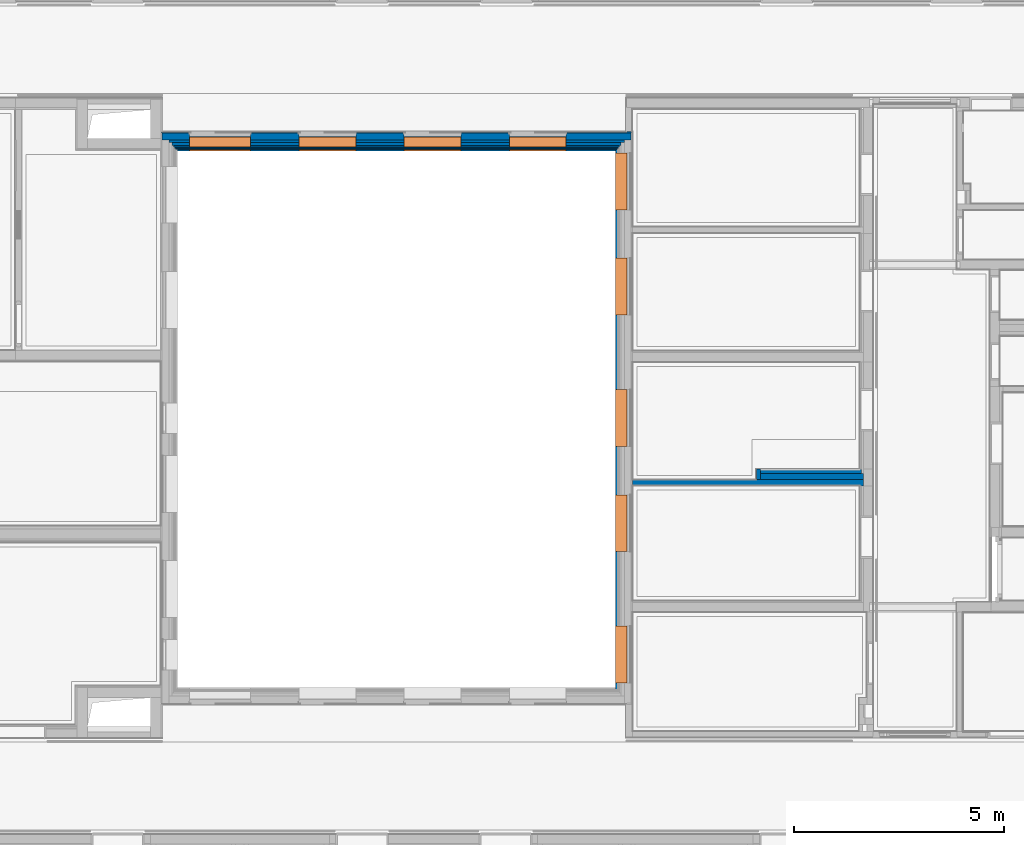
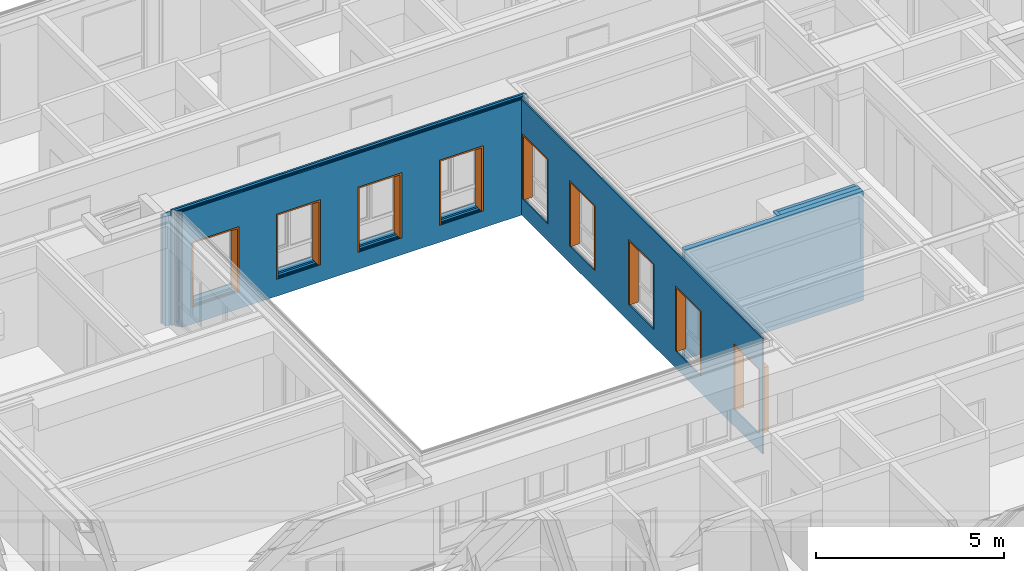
# One storey, part 48 of 222: 13 walls, 9 proxies, 37 openings.
"""IFC4 building model written with IfcOpenShell, lengths in metres."""

from ifc_helpers import new_model, entity, si_unit, converted_unit, derived_unit, frame, frame_2d, origin, origin_with_axes, place, context, subcontext, project, spatial, polyline, rectangle, outline, extrude, faceted_brep, material, element, fill, save


model = new_model("IFC4")

# Units and contexts
model_context = context("Model", 3, precision=1e-05, world=origin())
body_context = subcontext(model_context, "Body", "Model", "MODEL_VIEW")
ifc_project = project(units=[si_unit("LENGTHUNIT", "METRE"), si_unit("AREAUNIT", "SQUARE_METRE"), si_unit("VOLUMEUNIT", "CUBIC_METRE"), si_unit("MASSUNIT", "GRAM", prefix="KILO"), converted_unit("PLANEANGLEUNIT", "DEGREE", entity("IfcPlaneAngleMeasure", 0.0174532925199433), si_unit("PLANEANGLEUNIT", "RADIAN"), dimensions=[0, 0, 0, 0, 0, 0, 0]), derived_unit("THERMALTRANSMITTANCEUNIT", [(si_unit("POWERUNIT", "WATT"), 1), (si_unit("THERMODYNAMICTEMPERATUREUNIT", "KELVIN"), -1), (si_unit("LENGTHUNIT", "METRE"), -2)]), derived_unit("VOLUMETRICFLOWRATEUNIT", [(si_unit("LENGTHUNIT", "METRE"), 3), (converted_unit("TIMEUNIT", "hour", entity("IfcTimeMeasure", 3600.0), si_unit("TIMEUNIT", "SECOND"), dimensions=[0, 0, 1, 0, 0, 0, 0]), -1), (si_unit("LENGTHUNIT", "METRE"), -1)])], contexts=[model_context])

# Site, building, storey
site_placement = place(None, origin())
site = spatial("IfcSite", under=ifc_project, at=site_placement, Name="Psychiatrie Neubau Wunstorf", CompositionType="ELEMENT")
building_placement = place(site_placement, origin())
building = spatial("IfcBuilding", under=site, at=building_placement, Name="Neubau H2 Stationsgebäude", CompositionType="ELEMENT")
storey_placement = place(building_placement, frame((0.0, 0.0, 3.6)))
storey = spatial("IfcBuildingStorey", under=building, at=storey_placement, Name="H2 Ebene +1", CompositionType="ELEMENT", Elevation=3.6)

# Wall, openings, proxies
ifc_material_1 = material(Name="WA-HS")
wall_1_placement = place(storey_placement, frame((90.001, 8.77400918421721, 0.0), z_axis=(0.0, 0.0, 1.0), x_axis=(0.0, 1.0, 0.0)))
wall_1 = element("IfcWall", 1, at=wall_1_placement, inside=storey, material=ifc_material_1, context=body_context, shape_type="SweptSolid", body=[
    extrude(rectangle(XDim=12.8419924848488, YDim=0.042, at=frame_2d((6.42099624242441, 0.021), x_axis=(1.0, 0.0))), origin_with_axes(), (0.0, 0.0, 1.0), 3.75),
])
opening_1_placement = place(wall_1_placement, frame((1.50172768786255, 0.042, 0.55), z_axis=(0.0, -1.0, 0.0), x_axis=(0.0, 0.0, 1.0)))
opening_1 = element("IfcOpeningElement", 2, at=opening_1_placement, cuts=wall_1, Name="Fensteröffnung", ObjectType="Opening", context=body_context, shape_type="SweptSolid", body=[
    extrude(outline(polyline([(2.115, 1.35), (2.115, 0.0), (0.0, 0.0), (0.0, 1.35), (2.115, 1.35)])), origin_with_axes(), (0.0, 0.0, 1.0), 0.042),
])
opening_2_placement = place(wall_1_placement, frame((4.62600281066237, 0.0419999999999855, 0.55), z_axis=(0.0, -1.0, 0.0), x_axis=(0.0, 0.0, 1.0)))
opening_2 = element("IfcOpeningElement", 3, at=opening_2_placement, cuts=wall_1, Name="Fensteröffnung", ObjectType="Opening", context=body_context, shape_type="SweptSolid", body=[
    extrude(outline(polyline([(2.115, 1.35), (2.115, 0.0), (0.0, 0.0), (0.0, 1.35), (2.115, 1.35)])), origin_with_axes(), (0.0, 0.0, 1.0), 0.042),
])
opening_3_placement = place(wall_1_placement, frame((7.12600281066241, 0.042, 0.55), z_axis=(0.0, -1.0, 0.0), x_axis=(0.0, 0.0, 1.0)))
opening_3 = element("IfcOpeningElement", 4, at=opening_3_placement, cuts=wall_1, Name="Fensteröffnung", ObjectType="Opening", context=body_context, shape_type="SweptSolid", body=[
    extrude(outline(polyline([(2.115, 1.35), (2.115, 0.0), (0.0, 0.0), (0.0, 1.35), (2.115, 1.35)])), origin_with_axes(), (0.0, 0.0, 1.0), 0.042),
])
opening_4_placement = place(wall_1_placement, frame((10.2506202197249, 0.0420000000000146, 0.55), z_axis=(0.0, -1.0, 0.0), x_axis=(0.0, 0.0, 1.0)))
opening_4 = element("IfcOpeningElement", 5, at=opening_4_placement, cuts=wall_1, Name="Fensteröffnung", ObjectType="Opening", context=body_context, shape_type="SweptSolid", body=[
    extrude(outline(polyline([(2.115, 1.35), (2.115, 0.0), (0.0, 0.0), (0.0, 1.35), (2.115, 1.35)])), origin_with_axes(), (0.0, 0.0, 1.0), 0.042),
])
opening_5_placement = place(wall_1_placement, frame((12.7505626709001, 0.0419999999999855, 0.55), z_axis=(0.0, -1.0, 0.0), x_axis=(0.0, 0.0, 1.0)))
opening_5 = element("IfcOpeningElement", 6, at=opening_5_placement, cuts=wall_1, Name="Fensteröffnung", ObjectType="Opening", context=body_context, shape_type="SweptSolid", body=[
    extrude(outline(polyline([(2.115, 1.35), (2.115, 0.0), (0.0, 0.0), (0.0, 1.35), (2.115, 1.35)])), origin_with_axes(), (0.0, 0.0, 1.0), 0.042),
])
ifc_material_2 = material(Name="WA-HS")
proxy_1_placement = place(opening_1_placement, frame((0.0, 1.35, 0.0)))
proxy_1 = element("IfcBuildingElementProxy", 7, at=proxy_1_placement, inside=storey, material=ifc_material_2, context=body_context, shape_type="Brep", body=[
    faceted_brep([(0.0, 0.0, 0.275), (0.0, 0.0, 0.0), (2.115, 0.0, 0.0), (2.115, 0.0, 0.275), (2.115, -1.35, 0.0), (2.115, -1.35, 0.275), (0.0, -0.05, 0.0), (0.0, -0.05, 0.275), (0.0, -1.35, 0.275), (0.0, -1.3, 0.275), (2.065, -1.3, 0.275), (2.065, -0.05, 0.275), (2.065, -0.05, 0.0), (2.065, -1.3, 0.0), (0.0, -1.3, 0.0), (0.0, -1.35, 0.0)], [[[0, 1, 2, 3]], [[2, 4, 5, 3]], [[6, 1, 0, 7]], [[7, 0, 3, 5, 8, 9, 10, 11]], [[1, 6, 12, 13, 14, 15, 4, 2]], [[6, 7, 11, 12]], [[15, 8, 5, 4]], [[15, 14, 9, 8]], [[9, 14, 13, 10]], [[10, 13, 12, 11]]], orient=[[False], [False], [False], [False], [False], [False], [False], [False], [False], [False]]),
])
fill(opening_1, proxy_1)
ifc_material_3 = material(Name="WA-HS")
proxy_2_placement = place(opening_2_placement, frame((0.0, 1.35, 0.0)))
proxy_2 = element("IfcBuildingElementProxy", 8, at=proxy_2_placement, inside=storey, material=ifc_material_3, context=body_context, shape_type="Brep", body=[
    faceted_brep([(0.0, -1.35, 0.0), (0.0, -1.35, 0.275), (2.115, -1.35, 0.275), (2.115, -1.35, 0.0), (0.0, -1.3, 0.275), (0.0, -1.3, 0.0), (2.065, -1.3, 0.0), (2.065, -1.3, 0.275), (2.115, 0.0, 0.275), (2.115, 0.0, 0.0), (0.0, 0.0, 0.0), (0.0, -0.05, 0.0), (2.065, -0.05, 0.0), (2.065, -0.05, 0.275), (0.0, -0.05, 0.275), (0.0, 0.0, 0.275)], [[[0, 1, 2, 3]], [[4, 5, 6, 7]], [[0, 5, 4, 1]], [[3, 2, 8, 9]], [[6, 5, 0, 3, 9, 10, 11, 12]], [[13, 14, 15, 8, 2, 1, 4, 7]], [[7, 6, 12, 13]], [[11, 14, 13, 12]], [[15, 10, 9, 8]], [[11, 10, 15, 14]]], orient=[[False], [False], [False], [False], [False], [False], [False], [False], [False], [False]]),
])
fill(opening_2, proxy_2)
ifc_material_4 = material(Name="WA-HS")
proxy_3_placement = place(opening_3_placement, frame((0.0, 1.35, 0.0)))
proxy_3 = element("IfcBuildingElementProxy", 9, at=proxy_3_placement, inside=storey, material=ifc_material_4, context=body_context, shape_type="Brep", body=[
    faceted_brep([(0.0, 0.0, 0.275), (0.0, 0.0, 0.0), (2.115, 0.0, 0.0), (2.115, 0.0, 0.275), (2.115, -1.35, 0.0), (2.115, -1.35, 0.275), (0.0, -0.05, 0.0), (0.0, -0.05, 0.275), (0.0, -1.35, 0.275), (0.0, -1.3, 0.275), (2.065, -1.3, 0.275), (2.065, -0.05, 0.275), (2.065, -0.05, 0.0), (2.065, -1.3, 0.0), (0.0, -1.3, 0.0), (0.0, -1.35, 0.0)], [[[0, 1, 2, 3]], [[2, 4, 5, 3]], [[6, 1, 0, 7]], [[7, 0, 3, 5, 8, 9, 10, 11]], [[1, 6, 12, 13, 14, 15, 4, 2]], [[6, 7, 11, 12]], [[15, 8, 5, 4]], [[15, 14, 9, 8]], [[9, 14, 13, 10]], [[10, 13, 12, 11]]], orient=[[False], [False], [False], [False], [False], [False], [False], [False], [False], [False]]),
])
fill(opening_3, proxy_3)
ifc_material_5 = material(Name="WA-HS")
proxy_4_placement = place(opening_4_placement, frame((0.0, 1.35, 0.0)))
proxy_4 = element("IfcBuildingElementProxy", 10, at=proxy_4_placement, inside=storey, material=ifc_material_5, context=body_context, shape_type="Brep", body=[
    faceted_brep([(0.0, -1.35, 0.0), (0.0, -1.35, 0.275), (2.115, -1.35, 0.275), (2.115, -1.35, 0.0), (0.0, -1.3, 0.275), (0.0, -1.3, 0.0), (2.065, -1.3, 0.0), (2.065, -1.3, 0.275), (2.115, 0.0, 0.275), (2.115, 0.0, 0.0), (0.0, 0.0, 0.0), (0.0, -0.05, 0.0), (2.065, -0.05, 0.0), (2.065, -0.05, 0.275), (0.0, -0.05, 0.275), (0.0, 0.0, 0.275)], [[[0, 1, 2, 3]], [[4, 5, 6, 7]], [[0, 5, 4, 1]], [[3, 2, 8, 9]], [[6, 5, 0, 3, 9, 10, 11, 12]], [[13, 14, 15, 8, 2, 1, 4, 7]], [[7, 6, 12, 13]], [[11, 14, 13, 12]], [[15, 10, 9, 8]], [[11, 10, 15, 14]]], orient=[[False], [False], [False], [False], [False], [False], [False], [False], [False], [False]]),
])
fill(opening_4, proxy_4)
ifc_material_6 = material(Name="WA-HS")
proxy_5_placement = place(opening_5_placement, frame((0.0, 1.35, 0.0)))
proxy_5 = element("IfcBuildingElementProxy", 11, at=proxy_5_placement, inside=storey, material=ifc_material_6, context=body_context, shape_type="Brep", body=[
    faceted_brep([(0.0, 0.0, 0.275), (0.0, 0.0, 0.0), (2.115, 0.0, 0.0), (2.115, 0.0, 0.275), (2.115, -1.35, 0.0), (2.115, -1.35, 0.275), (0.0, -0.05, 0.0), (0.0, -0.05, 0.275), (0.0, -1.35, 0.275), (0.0, -1.3, 0.275), (2.065, -1.3, 0.275), (2.065, -0.05, 0.275), (2.065, -0.05, 0.0), (2.065, -1.3, 0.0), (0.0, -1.3, 0.0), (0.0, -1.35, 0.0)], [[[0, 1, 2, 3]], [[2, 4, 5, 3]], [[6, 1, 0, 7]], [[7, 0, 3, 5, 8, 9, 10, 11]], [[1, 6, 12, 13, 14, 15, 4, 2]], [[6, 7, 11, 12]], [[15, 8, 5, 4]], [[15, 14, 9, 8]], [[9, 14, 13, 10]], [[10, 13, 12, 11]]], orient=[[False], [False], [False], [False], [False], [False], [False], [False], [False], [False]]),
])
fill(opening_5, proxy_5)

# Wall, openings
ifc_material_7 = material(Name="WA-LB")
wall_2_placement = place(storey_placement, frame((90.361, 22.036, 0.0), z_axis=(0.0, 0.0, 1.0), x_axis=(-1.0, 0.0, 0.0)))
wall_2 = element("IfcWall", 12, at=wall_2_placement, inside=storey, material=ifc_material_7, context=body_context, shape_type="SweptSolid", body=[
    extrude(outline(polyline([(-11.222, -0.0359999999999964), (0.0, -0.0359999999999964), (0.0, 0.0), (-11.222, -6.51690208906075e-06), (-11.222, -0.0359999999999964)])), frame((11.222, 0.0359999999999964, 0.0), z_axis=(0.0, 0.0, 1.0), x_axis=(1.0, 0.0, 0.0)), (0.0, 0.0, 1.0), 3.55),
])
opening_6_placement = place(wall_2_placement, frame((7.9313, 0.0359980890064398, 0.55), z_axis=(5.80763002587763e-07, -0.999999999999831, 0.0), x_axis=(0.0, 0.0, 1.0)))
element("IfcOpeningElement", 13, at=opening_6_placement, cuts=wall_2, Name="Fensteröffnung", ObjectType="Opening", context=body_context, shape_type="SweptSolid", body=[
    extrude(outline(polyline([(2.115, 1.35000000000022), (2.115, 0.0), (0.0, 0.0), (0.0, 1.35000000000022), (2.115, 1.35000000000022)])), origin_with_axes(), (0.0, 0.0, 1.0), 0.0359980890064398),
])
opening_7_placement = place(wall_2_placement, frame((5.4313, 0.035996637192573, 0.55), z_axis=(5.80762978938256e-07, -0.999999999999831, 0.0), x_axis=(0.0, 0.0, 1.0)))
element("IfcOpeningElement", 14, at=opening_7_placement, cuts=wall_2, Name="Fensteröffnung", ObjectType="Opening", context=body_context, shape_type="SweptSolid", body=[
    extrude(outline(polyline([(2.115, 1.35000030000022), (2.115, 0.0), (0.0, 0.0), (0.0, 1.35000030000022), (2.115, 1.35000030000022)])), origin_with_axes(), (0.0, 0.0, 1.0), 0.035996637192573),
])
opening_8_placement = place(wall_2_placement, frame((2.9312997, 0.0359951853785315, 0.55), z_axis=(5.80762955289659e-07, -0.999999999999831, 0.0), x_axis=(0.0, 0.0, 1.0)))
element("IfcOpeningElement", 15, at=opening_8_placement, cuts=wall_2, Name="Fensteröffnung", ObjectType="Opening", context=body_context, shape_type="SweptSolid", body=[
    extrude(outline(polyline([(2.115, 1.35000030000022), (2.115, 0.0), (0.0, 0.0), (0.0, 1.35000030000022), (2.115, 1.35000030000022)])), origin_with_axes(), (0.0, 0.0, 1.0), 0.0359951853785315),
])
opening_9_placement = place(wall_2_placement, frame((10.5313, 0.0359995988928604, 0.55), z_axis=(5.80954095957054e-07, -0.999999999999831, 0.0), x_axis=(0.0, 0.0, 1.0)))
element("IfcOpeningElement", 16, at=opening_9_placement, cuts=wall_2, Name="Fensteröffnung", ObjectType="Opening", context=body_context, shape_type="SweptSolid", body=[
    extrude(outline(polyline([(2.115, 1.45000000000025), (2.115, 0.0), (0.0, 0.0), (0.0, 1.45000000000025), (2.115, 1.45000000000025)])), origin_with_axes(), (0.0, 0.0, 1.0), 0.0359995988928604),
])

ifc_material_8 = material(Name="WA-DL")
wall_3_placement = place(storey_placement, frame((90.325, 22.000006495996, 0.0), z_axis=(0.0, 0.0, 1.0), x_axis=(-0.999999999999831, -5.80725547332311e-07, 0.0)))
wall_3 = element("IfcWall", 17, at=wall_3_placement, inside=storey, material=ifc_material_8, context=body_context, shape_type="SweptSolid", body=[
    extrude(outline(polyline([(-11.150000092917, -0.159998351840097), (-9.29151304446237e-08, -0.159998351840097), (0.0, 0.0), (-11.1499999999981, 6.47508983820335e-06), (-11.150000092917, -0.159998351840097)])), frame((11.150000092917, 0.159998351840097, 0.0), z_axis=(0.0, 0.0, 1.0), x_axis=(1.0, 0.0, 0.0)), (0.0, 0.0, 1.0), 3.55),
])
opening_10_placement = place(wall_3_placement, frame((7.89530009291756, 0.160000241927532, 0.55), z_axis=(-5.80725546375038e-07, -0.999999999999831, 0.0), x_axis=(0.0, 0.0, 1.0)))
element("IfcOpeningElement", 18, at=opening_10_placement, cuts=wall_3, Name="Fensteröffnung", ObjectType="Opening", context=body_context, shape_type="SweptSolid", body=[
    extrude(outline(polyline([(2.115, 1.35), (2.115, 0.0), (0.0, 0.0), (0.0, 1.35), (2.115, 1.35)])), origin_with_axes(), (0.0, 0.0, 1.0), 0.160000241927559),
])
opening_11_placement = place(wall_3_placement, frame((5.39530009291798, 0.160001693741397, 0.55), z_axis=(-5.80725546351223e-07, -0.999999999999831, 0.0), x_axis=(0.0, 0.0, 1.0)))
element("IfcOpeningElement", 19, at=opening_11_placement, cuts=wall_3, Name="Fensteröffnung", ObjectType="Opening", context=body_context, shape_type="SweptSolid", body=[
    extrude(outline(polyline([(2.115, 1.3500003), (2.115, 0.0), (0.0, 0.0), (0.0, 1.3500003), (2.115, 1.3500003)])), origin_with_axes(), (0.0, 0.0, 1.0), 0.160001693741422),
])
opening_12_placement = place(wall_3_placement, frame((2.89529979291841, 0.160003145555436, 0.55), z_axis=(-5.80725549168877e-07, -0.999999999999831, 0.0), x_axis=(0.0, 0.0, 1.0)))
element("IfcOpeningElement", 20, at=opening_12_placement, cuts=wall_3, Name="Fensteröffnung", ObjectType="Opening", context=body_context, shape_type="SweptSolid", body=[
    extrude(outline(polyline([(2.115, 1.3500003), (2.115, 0.0), (0.0, 0.0), (0.0, 1.3500003), (2.115, 1.3500003)])), origin_with_axes(), (0.0, 0.0, 1.0), 0.160003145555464),
])
opening_13_placement = place(wall_3_placement, frame((10.4953000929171, 0.159998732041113, 0.55), z_axis=(-5.80725541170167e-07, -0.999999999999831, 0.0), x_axis=(0.0, 0.0, 1.0)))
element("IfcOpeningElement", 21, at=opening_13_placement, cuts=wall_3, Name="Fensteröffnung", ObjectType="Opening", context=body_context, shape_type="SweptSolid", body=[
    extrude(outline(polyline([(2.115, 1.45), (2.115, 0.0), (0.0, 0.0), (0.0, 1.45), (2.115, 1.45)])), origin_with_axes(), (0.0, 0.0, 1.0), 0.159998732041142),
])

ifc_material_9 = material(Name="WA-DL")
wall_4_placement = place(storey_placement, frame((90.165, 21.840001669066, 0.0), z_axis=(0.0, 0.0, 1.0), x_axis=(-1.0, -1.34366714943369e-15, 0.0)))
wall_4 = element("IfcWall", 22, at=wall_4_placement, inside=storey, material=ifc_material_9, context=body_context, shape_type="SweptSolid", body=[
    extrude(rectangle(XDim=10.83, YDim=0.06, at=frame_2d((5.415, 0.03), x_axis=(1.0, 0.0))), origin_with_axes(), (0.0, 0.0, 1.0), 3.75),
])
opening_14_placement = place(wall_4_placement, frame((7.7353, 0.0600000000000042, 0.55), z_axis=(0.0, -1.0, 0.0), x_axis=(0.0, 0.0, 1.0)))
element("IfcOpeningElement", 23, at=opening_14_placement, cuts=wall_4, Name="Fensteröffnung", ObjectType="Opening", context=body_context, shape_type="SweptSolid", body=[
    extrude(outline(polyline([(2.115, 1.35), (2.115, 0.0), (0.0, 0.0), (0.0, 1.35), (2.115, 1.35)])), origin_with_axes(), (0.0, 0.0, 1.0), 0.0600000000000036),
])
opening_15_placement = place(wall_4_placement, frame((5.2353, 0.0600000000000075, 0.55), z_axis=(0.0, -1.0, 0.0), x_axis=(0.0, 0.0, 1.0)))
element("IfcOpeningElement", 24, at=opening_15_placement, cuts=wall_4, Name="Fensteröffnung", ObjectType="Opening", context=body_context, shape_type="SweptSolid", body=[
    extrude(outline(polyline([(2.115, 1.3500003), (2.115, 0.0), (0.0, 0.0), (0.0, 1.3500003), (2.115, 1.3500003)])), origin_with_axes(), (0.0, 0.0, 1.0), 0.0600000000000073),
])
opening_16_placement = place(wall_4_placement, frame((2.7352997, 0.0600000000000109, 0.55), z_axis=(0.0, -1.0, 0.0), x_axis=(0.0, 0.0, 1.0)))
element("IfcOpeningElement", 25, at=opening_16_placement, cuts=wall_4, Name="Fensteröffnung", ObjectType="Opening", context=body_context, shape_type="SweptSolid", body=[
    extrude(outline(polyline([(2.115, 1.3500003), (2.115, 0.0), (0.0, 0.0), (0.0, 1.3500003), (2.115, 1.3500003)])), origin_with_axes(), (0.0, 0.0, 1.0), 0.0600000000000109),
])
opening_17_placement = place(wall_4_placement, frame((10.3353, 0.0600000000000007, 0.55), z_axis=(0.0, -1.0, 0.0), x_axis=(0.0, 0.0, 1.0)))
element("IfcOpeningElement", 26, at=opening_17_placement, cuts=wall_4, Name="Fensteröffnung", ObjectType="Opening", context=body_context, shape_type="SweptSolid", body=[
    extrude(outline(polyline([(2.115, 1.45), (2.115, 0.0), (0.0, 0.0), (0.0, 1.45), (2.115, 1.45)])), origin_with_axes(), (0.0, 0.0, 1.0), 0.06),
])

ifc_material_10 = material(Name="WA-DL")
wall_5_placement = place(storey_placement, frame((90.085, 21.780001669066, 0.0), z_axis=(0.0, 0.0, 1.0), x_axis=(-1.0, 0.0, 0.0)))
wall_5 = element("IfcWall", 27, at=wall_5_placement, inside=storey, material=ifc_material_10, context=body_context, shape_type="SweptSolid", body=[
    extrude(rectangle(XDim=10.67, YDim=0.08, at=frame_2d((5.335, 0.04), x_axis=(1.0, 0.0))), origin_with_axes(), (0.0, 0.0, 1.0), 3.75),
])
opening_18_placement = place(wall_5_placement, frame((7.6553, 0.08, 0.55), z_axis=(0.0, -1.0, 0.0), x_axis=(0.0, 0.0, 1.0)))
element("IfcOpeningElement", 28, at=opening_18_placement, cuts=wall_5, Name="Fensteröffnung", ObjectType="Opening", context=body_context, shape_type="SweptSolid", body=[
    extrude(outline(polyline([(2.115, 1.35), (2.115, 0.0), (0.0, 0.0), (0.0, 1.35), (2.115, 1.35)])), origin_with_axes(), (0.0, 0.0, 1.0), 0.08),
])
opening_19_placement = place(wall_5_placement, frame((5.1553, 0.08, 0.55), z_axis=(0.0, -1.0, 0.0), x_axis=(0.0, 0.0, 1.0)))
element("IfcOpeningElement", 29, at=opening_19_placement, cuts=wall_5, Name="Fensteröffnung", ObjectType="Opening", context=body_context, shape_type="SweptSolid", body=[
    extrude(outline(polyline([(2.115, 1.3500003), (2.115, 0.0), (0.0, 0.0), (0.0, 1.3500003), (2.115, 1.3500003)])), origin_with_axes(), (0.0, 0.0, 1.0), 0.08),
])
opening_20_placement = place(wall_5_placement, frame((2.6552997, 0.08, 0.55), z_axis=(0.0, -1.0, 0.0), x_axis=(0.0, 0.0, 1.0)))
element("IfcOpeningElement", 30, at=opening_20_placement, cuts=wall_5, Name="Fensteröffnung", ObjectType="Opening", context=body_context, shape_type="SweptSolid", body=[
    extrude(outline(polyline([(2.115, 1.3500003), (2.115, 0.0), (0.0, 0.0), (0.0, 1.3500003), (2.115, 1.3500003)])), origin_with_axes(), (0.0, 0.0, 1.0), 0.08),
])
opening_21_placement = place(wall_5_placement, frame((10.2553, 0.08, 0.55), z_axis=(0.0, -1.0, 0.0), x_axis=(0.0, 0.0, 1.0)))
element("IfcOpeningElement", 31, at=opening_21_placement, cuts=wall_5, Name="Fensteröffnung", ObjectType="Opening", context=body_context, shape_type="SweptSolid", body=[
    extrude(outline(polyline([(2.115, 1.45), (2.115, 0.0), (0.0, 0.0), (0.0, 1.45), (2.115, 1.45)])), origin_with_axes(), (0.0, 0.0, 1.0), 0.08),
])

ifc_material_11 = material(Name="WA-LB")
wall_6_placement = place(storey_placement, frame((90.049, 21.700001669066, 0.0), z_axis=(0.0, 0.0, 1.0), x_axis=(-1.0, 0.0, 0.0)))
wall_6 = element("IfcWall", 32, at=wall_6_placement, inside=storey, material=ifc_material_11, context=body_context, shape_type="SweptSolid", body=[
    extrude(rectangle(XDim=10.598, YDim=0.036, at=frame_2d((5.299, 0.018), x_axis=(1.0, 0.0))), origin_with_axes(), (0.0, 0.0, 1.0), 3.75),
])
opening_22_placement = place(wall_6_placement, frame((7.6193, 0.036, 0.55), z_axis=(0.0, -1.0, 0.0), x_axis=(0.0, 0.0, 1.0)))
element("IfcOpeningElement", 33, at=opening_22_placement, cuts=wall_6, Name="Fensteröffnung", ObjectType="Opening", context=body_context, shape_type="SweptSolid", body=[
    extrude(outline(polyline([(2.115, 1.35), (2.115, 0.0), (0.0, 0.0), (0.0, 1.35), (2.115, 1.35)])), origin_with_axes(), (0.0, 0.0, 1.0), 0.036),
])
opening_23_placement = place(wall_6_placement, frame((5.1193, 0.036, 0.55), z_axis=(0.0, -1.0, 0.0), x_axis=(0.0, 0.0, 1.0)))
element("IfcOpeningElement", 34, at=opening_23_placement, cuts=wall_6, Name="Fensteröffnung", ObjectType="Opening", context=body_context, shape_type="SweptSolid", body=[
    extrude(outline(polyline([(2.115, 1.3500003), (2.115, 0.0), (0.0, 0.0), (0.0, 1.3500003), (2.115, 1.3500003)])), origin_with_axes(), (0.0, 0.0, 1.0), 0.036),
])
opening_24_placement = place(wall_6_placement, frame((2.6192997, 0.036, 0.55), z_axis=(0.0, -1.0, 0.0), x_axis=(0.0, 0.0, 1.0)))
element("IfcOpeningElement", 35, at=opening_24_placement, cuts=wall_6, Name="Fensteröffnung", ObjectType="Opening", context=body_context, shape_type="SweptSolid", body=[
    extrude(outline(polyline([(2.115, 1.3500003), (2.115, 0.0), (0.0, 0.0), (0.0, 1.3500003), (2.115, 1.3500003)])), origin_with_axes(), (0.0, 0.0, 1.0), 0.036),
])
opening_25_placement = place(wall_6_placement, frame((10.2193, 0.036, 0.55), z_axis=(0.0, -1.0, 0.0), x_axis=(0.0, 0.0, 1.0)))
element("IfcOpeningElement", 36, at=opening_25_placement, cuts=wall_6, Name="Fensteröffnung", ObjectType="Opening", context=body_context, shape_type="SweptSolid", body=[
    extrude(outline(polyline([(2.115, 1.45), (2.115, 0.0), (0.0, 0.0), (0.0, 1.45), (2.115, 1.45)])), origin_with_axes(), (0.0, 0.0, 1.0), 0.036),
])

ifc_material_12 = material(Name="WA-KL")
wall_7_placement = place(storey_placement, frame((90.025, 21.664001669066, 0.0), z_axis=(0.0, 0.0, 1.0), x_axis=(-1.0, 0.0, 0.0)))
wall_7 = element("IfcWall", 37, at=wall_7_placement, inside=storey, material=ifc_material_12, context=body_context, shape_type="SweptSolid", body=[
    extrude(rectangle(XDim=10.55, YDim=0.024, at=frame_2d((5.275, 0.012), x_axis=(1.0, 0.0))), origin_with_axes(), (0.0, 0.0, 1.0), 3.75),
])
opening_26_placement = place(wall_7_placement, frame((7.5953, 0.024, 0.55), z_axis=(0.0, -1.0, 0.0), x_axis=(0.0, 0.0, 1.0)))
element("IfcOpeningElement", 38, at=opening_26_placement, cuts=wall_7, Name="Fensteröffnung", ObjectType="Opening", context=body_context, shape_type="SweptSolid", body=[
    extrude(outline(polyline([(2.115, 1.35), (2.115, 0.0), (0.0, 0.0), (0.0, 1.35), (2.115, 1.35)])), origin_with_axes(), (0.0, 0.0, 1.0), 0.024),
])
opening_27_placement = place(wall_7_placement, frame((5.0953, 0.024, 0.55), z_axis=(0.0, -1.0, 0.0), x_axis=(0.0, 0.0, 1.0)))
element("IfcOpeningElement", 39, at=opening_27_placement, cuts=wall_7, Name="Fensteröffnung", ObjectType="Opening", context=body_context, shape_type="SweptSolid", body=[
    extrude(outline(polyline([(2.115, 1.3500003), (2.115, 0.0), (0.0, 0.0), (0.0, 1.3500003), (2.115, 1.3500003)])), origin_with_axes(), (0.0, 0.0, 1.0), 0.024),
])
opening_28_placement = place(wall_7_placement, frame((2.5952997, 0.024, 0.55), z_axis=(0.0, -1.0, 0.0), x_axis=(0.0, 0.0, 1.0)))
element("IfcOpeningElement", 40, at=opening_28_placement, cuts=wall_7, Name="Fensteröffnung", ObjectType="Opening", context=body_context, shape_type="SweptSolid", body=[
    extrude(outline(polyline([(2.115, 1.3500003), (2.115, 0.0), (0.0, 0.0), (0.0, 1.3500003), (2.115, 1.3500003)])), origin_with_axes(), (0.0, 0.0, 1.0), 0.024),
])
opening_29_placement = place(wall_7_placement, frame((10.1953, 0.024, 0.55), z_axis=(0.0, -1.0, 0.0), x_axis=(0.0, 0.0, 1.0)))
element("IfcOpeningElement", 41, at=opening_29_placement, cuts=wall_7, Name="Fensteröffnung", ObjectType="Opening", context=body_context, shape_type="SweptSolid", body=[
    extrude(outline(polyline([(2.115, 1.45), (2.115, 0.0), (0.0, 0.0), (0.0, 1.45), (2.115, 1.45)])), origin_with_axes(), (0.0, 0.0, 1.0), 0.024),
])

ifc_material_13 = material(Name="WA-TL")
wall_8_placement = place(storey_placement, frame((90.001, 21.640001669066, 0.0), z_axis=(0.0, 0.0, 1.0), x_axis=(-1.0, 0.0, 0.0)))
wall_8 = element("IfcWall", 42, at=wall_8_placement, inside=storey, material=ifc_material_13, context=body_context, shape_type="SweptSolid", body=[
    extrude(rectangle(XDim=10.502, YDim=0.024, at=frame_2d((5.251, 0.012), x_axis=(1.0, 0.0))), origin_with_axes(), (0.0, 0.0, 1.0), 3.75),
])
opening_30_placement = place(wall_8_placement, frame((7.5713, 0.024, 0.55), z_axis=(0.0, -1.0, 0.0), x_axis=(0.0, 0.0, 1.0)))
element("IfcOpeningElement", 43, at=opening_30_placement, cuts=wall_8, Name="Fensteröffnung", ObjectType="Opening", context=body_context, shape_type="SweptSolid", body=[
    extrude(outline(polyline([(2.115, 1.35), (2.115, 0.0), (0.0, 0.0), (0.0, 1.35), (2.115, 1.35)])), origin_with_axes(), (0.0, 0.0, 1.0), 0.024),
])
opening_31_placement = place(wall_8_placement, frame((5.0713, 0.024, 0.55), z_axis=(0.0, -1.0, 0.0), x_axis=(0.0, 0.0, 1.0)))
element("IfcOpeningElement", 44, at=opening_31_placement, cuts=wall_8, Name="Fensteröffnung", ObjectType="Opening", context=body_context, shape_type="SweptSolid", body=[
    extrude(outline(polyline([(2.115, 1.3500003), (2.115, 0.0), (0.0, 0.0), (0.0, 1.3500003), (2.115, 1.3500003)])), origin_with_axes(), (0.0, 0.0, 1.0), 0.024),
])
opening_32_placement = place(wall_8_placement, frame((2.5712997, 0.024, 0.55), z_axis=(0.0, -1.0, 0.0), x_axis=(0.0, 0.0, 1.0)))
element("IfcOpeningElement", 45, at=opening_32_placement, cuts=wall_8, Name="Fensteröffnung", ObjectType="Opening", context=body_context, shape_type="SweptSolid", body=[
    extrude(outline(polyline([(2.115, 1.3500003), (2.115, 0.0), (0.0, 0.0), (0.0, 1.3500003), (2.115, 1.3500003)])), origin_with_axes(), (0.0, 0.0, 1.0), 0.024),
])
opening_33_placement = place(wall_8_placement, frame((10.1713, 0.024, 0.55), z_axis=(0.0, -1.0, 0.0), x_axis=(0.0, 0.0, 1.0)))
element("IfcOpeningElement", 46, at=opening_33_placement, cuts=wall_8, Name="Fensteröffnung", ObjectType="Opening", context=body_context, shape_type="SweptSolid", body=[
    extrude(outline(polyline([(2.115, 1.45), (2.115, 0.0), (0.0, 0.0), (0.0, 1.45), (2.115, 1.45)])), origin_with_axes(), (0.0, 0.0, 1.0), 0.024),
])

# Wall, openings, proxies
ifc_material_14 = material(Name="WA-HS")
wall_9_placement = place(storey_placement, frame((89.959, 21.616001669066, 0.0), z_axis=(0.0, 0.0, 1.0), x_axis=(-1.0, 0.0, 0.0)))
wall_9 = element("IfcWall", 47, at=wall_9_placement, inside=storey, material=ifc_material_14, context=body_context, shape_type="SweptSolid", body=[
    extrude(rectangle(XDim=10.418, YDim=0.042, at=frame_2d((5.209, 0.021), x_axis=(1.0, 0.0))), origin_with_axes(), (0.0, 0.0, 1.0), 3.75),
])
opening_34_placement = place(wall_9_placement, frame((7.5293, 0.042, 0.55), z_axis=(0.0, -1.0, 0.0), x_axis=(0.0, 0.0, 1.0)))
opening_34 = element("IfcOpeningElement", 48, at=opening_34_placement, cuts=wall_9, Name="Fensteröffnung", ObjectType="Opening", context=body_context, shape_type="SweptSolid", body=[
    extrude(outline(polyline([(2.115, 1.35), (2.115, 0.0), (0.0, 0.0), (0.0, 1.35), (2.115, 1.35)])), origin_with_axes(), (0.0, 0.0, 1.0), 0.042),
])
opening_35_placement = place(wall_9_placement, frame((5.0293, 0.042, 0.55), z_axis=(0.0, -1.0, 0.0), x_axis=(0.0, 0.0, 1.0)))
opening_35 = element("IfcOpeningElement", 49, at=opening_35_placement, cuts=wall_9, Name="Fensteröffnung", ObjectType="Opening", context=body_context, shape_type="SweptSolid", body=[
    extrude(outline(polyline([(2.115, 1.3500003), (2.115, 0.0), (0.0, 0.0), (0.0, 1.3500003), (2.115, 1.3500003)])), origin_with_axes(), (0.0, 0.0, 1.0), 0.042),
])
opening_36_placement = place(wall_9_placement, frame((2.5292997, 0.042, 0.55), z_axis=(0.0, -1.0, 0.0), x_axis=(0.0, 0.0, 1.0)))
opening_36 = element("IfcOpeningElement", 50, at=opening_36_placement, cuts=wall_9, Name="Fensteröffnung", ObjectType="Opening", context=body_context, shape_type="SweptSolid", body=[
    extrude(outline(polyline([(2.115, 1.3500003), (2.115, 0.0), (0.0, 0.0), (0.0, 1.3500003), (2.115, 1.3500003)])), origin_with_axes(), (0.0, 0.0, 1.0), 0.042),
])
opening_37_placement = place(wall_9_placement, frame((10.1293, 0.042, 0.55), z_axis=(0.0, -1.0, 0.0), x_axis=(0.0, 0.0, 1.0)))
opening_37 = element("IfcOpeningElement", 51, at=opening_37_placement, cuts=wall_9, Name="Fensteröffnung", ObjectType="Opening", context=body_context, shape_type="SweptSolid", body=[
    extrude(outline(polyline([(2.115, 1.45), (2.115, 0.0), (0.0, 0.0), (0.0, 1.45), (2.115, 1.45)])), origin_with_axes(), (0.0, 0.0, 1.0), 0.042),
])
ifc_material_15 = material(Name="WA-HS")
proxy_6_placement = place(opening_34_placement, origin())
proxy_6 = element("IfcBuildingElementProxy", 52, at=proxy_6_placement, inside=storey, material=ifc_material_15, context=body_context, shape_type="Brep", body=[
    faceted_brep([(0.0, 0.0, 0.0), (0.0, 0.0, 0.335), (2.115, 0.0, 0.335), (2.115, 0.0, 0.0), (0.0, 0.05, 0.335), (0.0, 0.05, 0.0), (2.065, 0.05, 0.0), (2.065, 0.05, 0.335), (2.115, 1.35, 0.335), (2.115, 1.35, 0.0), (0.0, 1.35, 0.0), (0.0, 1.3, 0.0), (2.065, 1.3, 0.0), (2.065, 1.3, 0.335), (0.0, 1.3, 0.335), (0.0, 1.35, 0.335)], [[[0, 1, 2, 3]], [[4, 5, 6, 7]], [[0, 5, 4, 1]], [[3, 2, 8, 9]], [[6, 5, 0, 3, 9, 10, 11, 12]], [[13, 14, 15, 8, 2, 1, 4, 7]], [[7, 6, 12, 13]], [[11, 14, 13, 12]], [[15, 10, 9, 8]], [[11, 10, 15, 14]]], orient=[[False], [False], [False], [False], [False], [False], [False], [False], [False], [False]]),
])
fill(opening_34, proxy_6)
ifc_material_16 = material(Name="WA-HS")
proxy_7_placement = place(opening_35_placement, origin())
proxy_7 = element("IfcBuildingElementProxy", 53, at=proxy_7_placement, inside=storey, material=ifc_material_16, context=body_context, shape_type="Brep", body=[
    faceted_brep([(0.0, 0.0, 0.0), (0.0, 0.0, 0.335), (2.115, 0.0, 0.335), (2.115, 0.0, 0.0), (0.0, 0.05, 0.335), (0.0, 0.05, 0.0), (2.065, 0.05, 0.0), (2.065, 0.05, 0.335), (2.115, 1.3500003, 0.335), (2.115, 1.3500003, 0.0), (0.0, 1.3500003, 0.0), (0.0, 1.3000003, 0.0), (2.065, 1.3000003, 0.0), (2.065, 1.3000003, 0.335), (0.0, 1.3000003, 0.335), (0.0, 1.3500003, 0.335)], [[[0, 1, 2, 3]], [[4, 5, 6, 7]], [[0, 5, 4, 1]], [[3, 2, 8, 9]], [[6, 5, 0, 3, 9, 10, 11, 12]], [[13, 14, 15, 8, 2, 1, 4, 7]], [[7, 6, 12, 13]], [[11, 14, 13, 12]], [[15, 10, 9, 8]], [[11, 10, 15, 14]]], orient=[[False], [False], [False], [False], [False], [False], [False], [False], [False], [False]]),
])
fill(opening_35, proxy_7)
ifc_material_17 = material(Name="WA-HS")
proxy_8_placement = place(opening_36_placement, origin())
proxy_8 = element("IfcBuildingElementProxy", 54, at=proxy_8_placement, inside=storey, material=ifc_material_17, context=body_context, shape_type="Brep", body=[
    faceted_brep([(0.0, 0.0, 0.0), (0.0, 0.0, 0.335), (2.115, 0.0, 0.335), (2.115, 0.0, 0.0), (0.0, 0.05, 0.335), (0.0, 0.05, 0.0), (2.065, 0.05, 0.0), (2.065, 0.05, 0.335), (2.115, 1.3500003, 0.335), (2.115, 1.3500003, 0.0), (0.0, 1.3500003, 0.0), (0.0, 1.3000003, 0.0), (2.065, 1.3000003, 0.0), (2.065, 1.3000003, 0.335), (0.0, 1.3000003, 0.335), (0.0, 1.3500003, 0.335)], [[[0, 1, 2, 3]], [[4, 5, 6, 7]], [[0, 5, 4, 1]], [[3, 2, 8, 9]], [[6, 5, 0, 3, 9, 10, 11, 12]], [[13, 14, 15, 8, 2, 1, 4, 7]], [[7, 6, 12, 13]], [[11, 14, 13, 12]], [[15, 10, 9, 8]], [[11, 10, 15, 14]]], orient=[[False], [False], [False], [False], [False], [False], [False], [False], [False], [False]]),
])
fill(opening_36, proxy_8)
ifc_material_18 = material(Name="WA-HS")
proxy_9_placement = place(opening_37_placement, origin())
proxy_9 = element("IfcBuildingElementProxy", 55, at=proxy_9_placement, inside=storey, material=ifc_material_18, context=body_context, shape_type="Brep", body=[
    faceted_brep([(0.0, 0.0, 0.0), (0.0, 0.0, 0.335), (2.115, 0.0, 0.335), (2.115, 0.0, 0.0), (0.0, 0.0500000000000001, 0.335), (0.0, 0.0500000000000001, 0.0), (2.065, 0.05, 0.0), (2.065, 0.05, 0.335), (2.115, 1.45, 0.335), (2.115, 1.45, 0.0), (0.0, 1.45, 0.0), (0.0, 1.4, 0.0), (2.065, 1.4, 0.0), (2.065, 1.4, 0.335), (0.0, 1.4, 0.335), (0.0, 1.45, 0.335)], [[[0, 1, 2, 3]], [[4, 5, 6, 7]], [[0, 5, 4, 1]], [[3, 2, 8, 9]], [[6, 5, 0, 3, 9, 10, 11, 12]], [[13, 14, 15, 8, 2, 1, 4, 7]], [[7, 6, 12, 13]], [[11, 14, 13, 12]], [[15, 10, 9, 8]], [[11, 10, 15, 14]]], orient=[[False], [False], [False], [False], [False], [False], [False], [False], [False], [False]]),
])
fill(opening_37, proxy_9)

# Walls
ifc_material_19 = material(Name="WI-LB")
wall_10_placement = place(storey_placement, frame((95.8504999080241, 13.7609999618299, 0.0), z_axis=(0.0, 0.0, 1.0), x_axis=(-1.0, 0.0, 0.0)))
element("IfcWall", 56, at=wall_10_placement, inside=storey, material=ifc_material_19, context=body_context, shape_type="SweptSolid", body=[
    extrude(rectangle(XDim=5.48949990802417, YDim=0.15, at=frame_2d((2.74474995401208, 0.075), x_axis=(1.0, 0.0))), origin_with_axes(), (0.0, 0.0, 1.0), 3.55),
])
ifc_material_20 = material(Name="WI-VS")
wall_11_placement = place(storey_placement, frame((93.303499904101, 14.0109999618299, 0.0), z_axis=(0.0, 0.0, 1.0), x_axis=(0.0, -1.0, 0.0)))
element("IfcWall", 57, at=wall_11_placement, inside=storey, material=ifc_material_20, context=body_context, shape_type="SweptSolid", body=[
    extrude(rectangle(XDim=0.25, YDim=0.1, at=frame_2d((0.125, 0.05), x_axis=(1.0, 0.0))), origin_with_axes(), (0.0, 0.0, 1.0), 3.55),
])
ifc_material_21 = material(Name="Installationsraum")
wall_12_placement = place(storey_placement, frame((93.403499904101, 13.7609999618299, 0.0)))
element("IfcWall", 58, at=wall_12_placement, inside=storey, material=ifc_material_21, context=body_context, shape_type="SweptSolid", body=[
    extrude(rectangle(XDim=2.44700000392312, YDim=0.15, at=frame_2d((1.22350000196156, 0.075), x_axis=(1.0, 0.0))), origin_with_axes(), (0.0, 0.0, 1.0), 3.55),
])
ifc_material_22 = material(Name="WI-VS")
wall_13_placement = place(storey_placement, frame((93.403499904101, 13.9109999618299, 0.0)))
element("IfcWall", 59, at=wall_13_placement, inside=storey, material=ifc_material_22, context=body_context, shape_type="SweptSolid", body=[
    extrude(rectangle(XDim=2.39700000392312, YDim=0.1, at=frame_2d((1.19850000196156, 0.05), x_axis=(1.0, 0.0))), origin_with_axes(), (0.0, 0.0, 1.0), 3.55),
])

save(model, "model.ifc")
